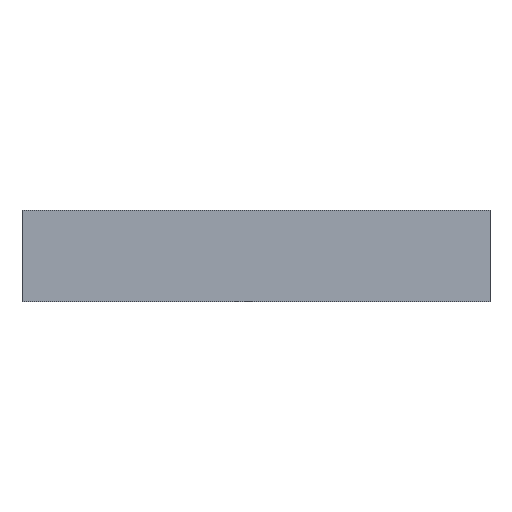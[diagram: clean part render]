
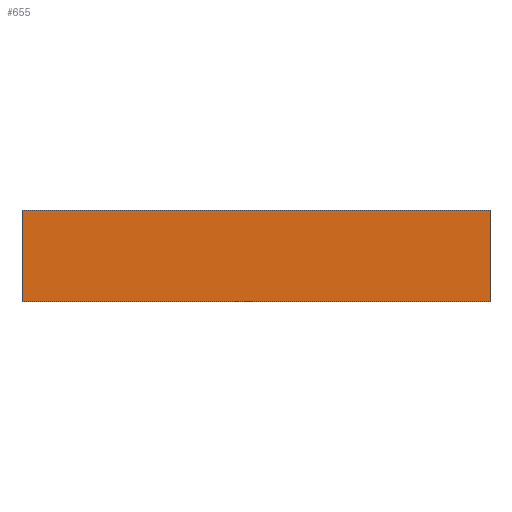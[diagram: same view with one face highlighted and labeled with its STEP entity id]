
A CAD part, left-side view. The second image highlights one B-rep face of the part: STEP entity #655.
In plain terms, the highlighted planar face has unit normal (-1, 0, 0).
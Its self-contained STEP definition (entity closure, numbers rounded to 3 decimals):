
#19 = CARTESIAN_POINT ( 'NONE',  ( -13., -180., 70. ) ) ;
#81 = CARTESIAN_POINT ( 'NONE',  ( -13., -180., 70. ) ) ;
#83 = FACE_OUTER_BOUND ( 'NONE', #362, .T. ) ;
#85 = ORIENTED_EDGE ( 'NONE', *, *, #274, .F. ) ;
#131 = VERTEX_POINT ( 'NONE', #511 ) ;
#139 = VERTEX_POINT ( 'NONE', #724 ) ;
#180 = VECTOR ( 'NONE', #372, 1000. ) ;
#199 = LINE ( 'NONE', #309, #354 ) ;
#202 = CARTESIAN_POINT ( 'NONE',  ( -13., -180., 70. ) ) ;
#228 = ORIENTED_EDGE ( 'NONE', *, *, #523, .T. ) ;
#253 = EDGE_CURVE ( 'NONE', #334, #323, #199, .T. ) ;
#274 = EDGE_CURVE ( 'NONE', #323, #131, #754, .T. ) ;
#275 = VECTOR ( 'NONE', #445, 1000. ) ;
#280 = CARTESIAN_POINT ( 'NONE',  ( -13., -180., 0. ) ) ;
#309 = CARTESIAN_POINT ( 'NONE',  ( -13., -180., 70. ) ) ;
#316 = CARTESIAN_POINT ( 'NONE',  ( -13., 180., 70. ) ) ;
#323 = VERTEX_POINT ( 'NONE', #202 ) ;
#334 = VERTEX_POINT ( 'NONE', #382 ) ;
#354 = VECTOR ( 'NONE', #636, 1000. ) ;
#362 = EDGE_LOOP ( 'NONE', ( #228, #85, #605, #409 ) ) ;
#372 = DIRECTION ( 'NONE',  ( 0., 0., -1. ) ) ;
#378 = PLANE ( 'NONE',  #457 ) ;
#382 = CARTESIAN_POINT ( 'NONE',  ( -13., 180., 70. ) ) ;
#403 = LINE ( 'NONE', #316, #275 ) ;
#409 = ORIENTED_EDGE ( 'NONE', *, *, #650, .T. ) ;
#444 = DIRECTION ( 'NONE',  ( 1., 0., 0. ) ) ;
#445 = DIRECTION ( 'NONE',  ( 0., 0., -1. ) ) ;
#457 = AXIS2_PLACEMENT_3D ( 'NONE', #81, #444, #468 ) ;
#468 = DIRECTION ( 'NONE',  ( 0., 0., -1. ) ) ;
#511 = CARTESIAN_POINT ( 'NONE',  ( -13., -180., 0. ) ) ;
#517 = LINE ( 'NONE', #280, #681 ) ;
#523 = EDGE_CURVE ( 'NONE', #139, #131, #517, .T. ) ;
#605 = ORIENTED_EDGE ( 'NONE', *, *, #253, .F. ) ;
#636 = DIRECTION ( 'NONE',  ( 0., -1., 0. ) ) ;
#650 = EDGE_CURVE ( 'NONE', #334, #139, #403, .T. ) ;
#655 = ADVANCED_FACE ( 'NONE', ( #83 ), #378, .F. ) ;
#681 = VECTOR ( 'NONE', #728, 1000. ) ;
#724 = CARTESIAN_POINT ( 'NONE',  ( -13., 180., 0. ) ) ;
#728 = DIRECTION ( 'NONE',  ( 0., -1., 0. ) ) ;
#754 = LINE ( 'NONE', #19, #180 ) ;
